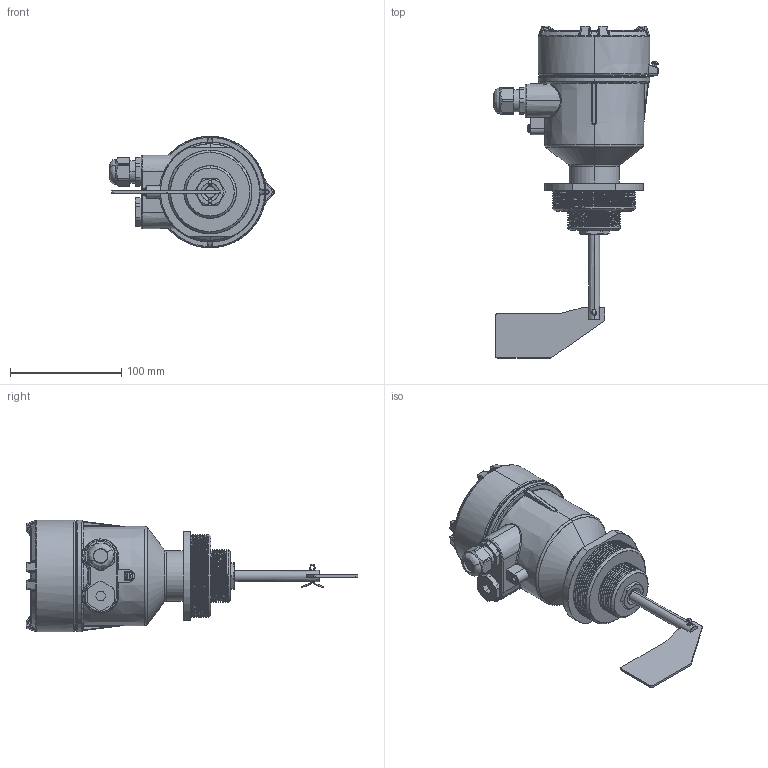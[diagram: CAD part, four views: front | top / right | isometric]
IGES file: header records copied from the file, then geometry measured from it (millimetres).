
Start section: SolidWorks IGES file using analytic representation for surfaces
Global section: file name: C:\Users\Äîì\Desktop\Äàò÷èêè ìîäåëè\IL-LAA-N-Ex\Ðåçüáà\IL-LAA-N-Ex - ð.IGS; native system: SolidWorks 2020; preprocessor: SolidWorks 2020; author: Äîì; date: 201223.192509; units: millimetre
Bounding box: 147.54 x 298 x 100 mm (x, y, z)
Surface area: 110610.6 mm2 (no closed solid volume)
Topology: 0 solids, 0 shells, 790 faces, 8527 edges, 8485 vertices
Faces by surface type: bspline 478, revolution 312
